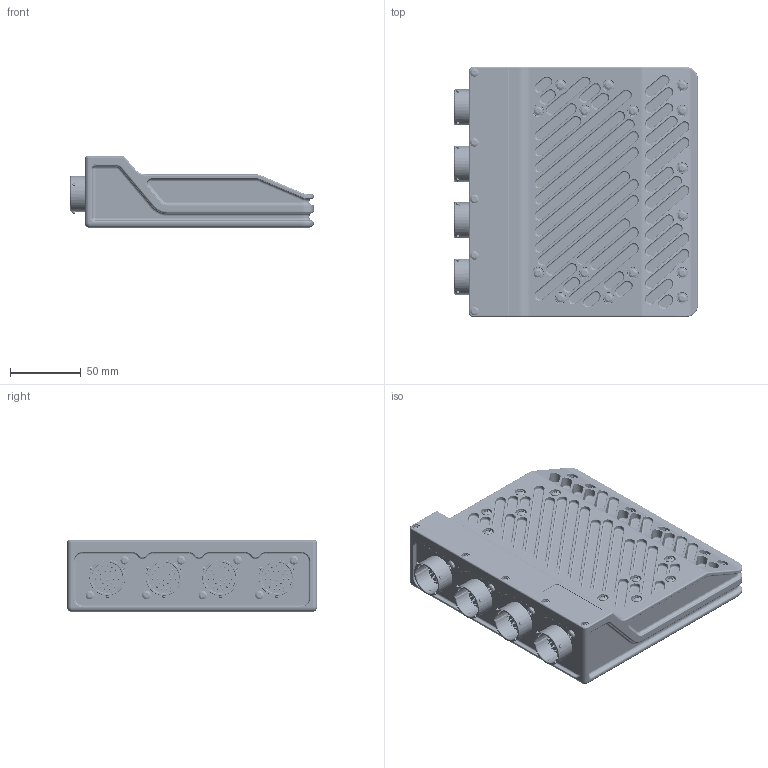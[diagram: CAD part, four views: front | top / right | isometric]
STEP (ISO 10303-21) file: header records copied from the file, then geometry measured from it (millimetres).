
FILE_DESCRIPTION(('CATIA V5 STEP Exchange'),'2;1');
FILE_NAME('T:\F90F new\251121_sent_to_AA\F90F-A Datasheet.stp','2025-11-21T15:24:22+00:00',('none'),('none'),'CATIA Version 5 Release 19 SP 9 (IN-10)','CATIA V5 STEP AP214','none');
FILE_SCHEMA(('AUTOMOTIVE_DESIGN { 1 0 10303 214 1 1 1 1 }'));
Products named in the file (1): F90F-A Datasheet
Bounding box: 172.4 x 177 x 50.5 mm (x, y, z)
Volume: 981068.6 mm3; surface area: 150578.8 mm2
Topology: 34 solids, 34 shells, 6762 faces, 15805 edges, 9765 vertices
Faces by surface type: cylinder 2508, plane 1374, cone 1353, torus 943, bspline 522, sphere 62
Entity records: 218986 total; most frequent: CARTESIAN_POINT 77258, ORIENTED_EDGE 31506, DIRECTION 23807, EDGE_CURVE 15753, AXIS2_PLACEMENT_3D 12844, VERTEX_POINT 9765, EDGE_LOOP 7487, CIRCLE 7032
